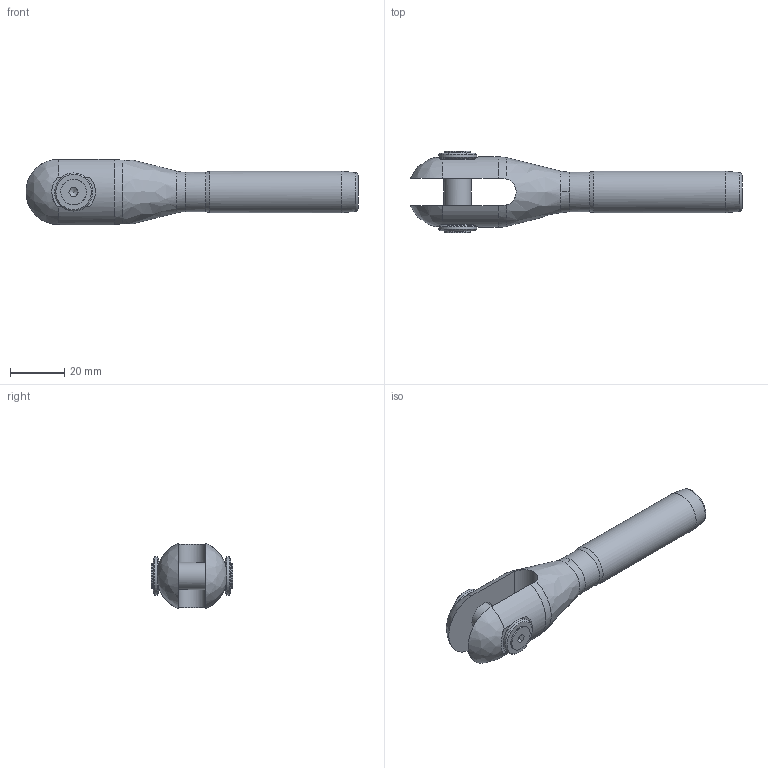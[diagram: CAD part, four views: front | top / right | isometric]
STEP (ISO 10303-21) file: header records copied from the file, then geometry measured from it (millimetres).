
FILE_DESCRIPTION(/* description */ (''),/* implementation_level */ '2;1');
FILE_NAME(/* name */ 'MAC 06_1,4418',/* time_stamp */ '2023-05-23T16:54:50+02:00',/* author */ (''),/* organization */ (''),/* preprocessor_version */ 'ST-DEVELOPER v16.5',/* originating_system */ 'Rhino 7.22',/* authorisation */ '');
FILE_SCHEMA (('CONFIG_CONTROL_DESIGN'));
Length unit declared in the file: millimetre
Products named in the file (1): Document
Bounding box: 121.99 x 29.96 x 24 mm (x, y, z)
Volume: 27451.1 mm3; surface area: 11049.3 mm2
Topology: 6 solids, 6 shells, 75 faces, 209 edges, 144 vertices
Faces by surface type: plane 29, bspline 24, cylinder 22
Full cylindrical faces by diameter (mm): 4.134 x2, 5 x2, 5.5 x2, 9.43 x2, 10 x1, 11 x2, 14 x2, 14.5 x1, 15.3 x1
Entity records: 3062 total; most frequent: CARTESIAN_POINT 1723, ORIENTED_EDGE 410, EDGE_CURVE 205, VERTEX_POINT 144, EDGE_LOOP 85, B_SPLINE_CURVE_WITH_KNOTS 80, ADVANCED_FACE 75, FACE_OUTER_BOUND 75
